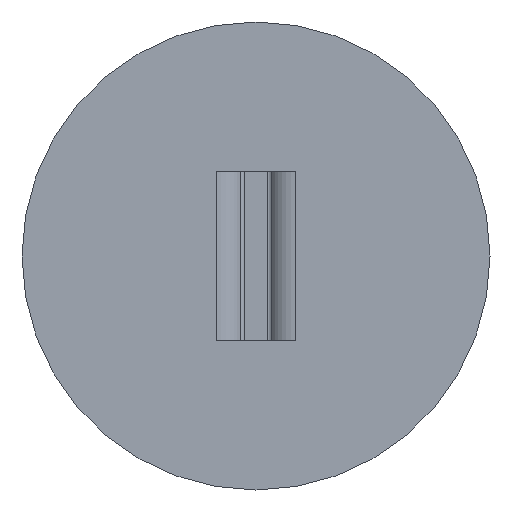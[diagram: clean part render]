
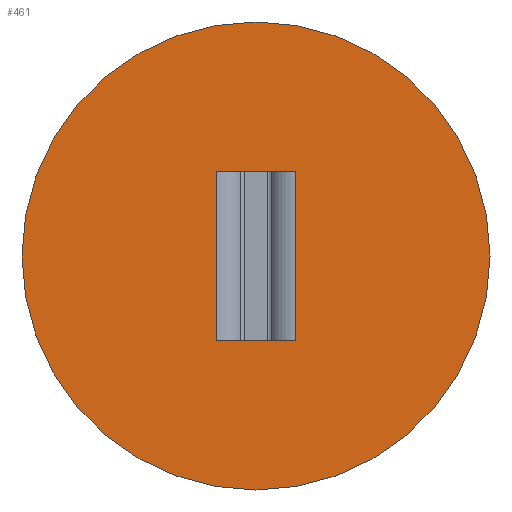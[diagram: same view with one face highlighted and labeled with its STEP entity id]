
A CAD part, front view. The second image highlights one B-rep face of the part: STEP entity #461.
In plain terms, the highlighted planar face has unit normal (0, -1, 0).
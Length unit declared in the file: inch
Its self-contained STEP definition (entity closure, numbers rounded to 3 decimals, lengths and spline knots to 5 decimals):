
#1 = ORIENTED_EDGE ( 'NONE', *, *, #41, .T. ) ;
#10 = VERTEX_POINT ( 'NONE', #290 ) ;
#24 = CARTESIAN_POINT ( 'NONE',  ( -0.625, -0.049, 0.2265 ) ) ;
#28 = EDGE_CURVE ( 'NONE', #10, #465, #191, .T. ) ;
#31 = CARTESIAN_POINT ( 'NONE',  ( 0.0885, -0.049, 0. ) ) ;
#36 = LINE ( 'NONE', #31, #269 ) ;
#39 = EDGE_LOOP ( 'NONE', ( #1, #381 ) ) ;
#41 = EDGE_CURVE ( 'NONE', #487, #387, #522, .T. ) ;
#48 = CARTESIAN_POINT ( 'NONE',  ( 0.0885, -0.049, 0.453 ) ) ;
#57 = ORIENTED_EDGE ( 'NONE', *, *, #593, .T. ) ;
#60 = CARTESIAN_POINT ( 'NONE',  ( 0.0885, -0.049, 0.453 ) ) ;
#71 = DIRECTION ( 'NONE',  ( 1., 0., 0. ) ) ;
#78 = EDGE_CURVE ( 'NONE', #387, #487, #502, .T. ) ;
#86 = LINE ( 'NONE', #301, #537 ) ;
#91 = VERTEX_POINT ( 'NONE', #310 ) ;
#95 = ORIENTED_EDGE ( 'NONE', *, *, #511, .F. ) ;
#111 = FACE_OUTER_BOUND ( 'NONE', #39, .T. ) ;
#128 = AXIS2_PLACEMENT_3D ( 'NONE', #60, #495, #71 ) ;
#137 = DIRECTION ( 'NONE',  ( 0., -1., 0. ) ) ;
#156 = CARTESIAN_POINT ( 'NONE',  ( 0., -0.049, 0.2265 ) ) ;
#172 = AXIS2_PLACEMENT_3D ( 'NONE', #156, #342, #540 ) ;
#191 = LINE ( 'NONE', #48, #276 ) ;
#193 = VECTOR ( 'NONE', #361, 39.37008 ) ;
#198 = DIRECTION ( 'NONE',  ( 1., 0., 0. ) ) ;
#230 = ORIENTED_EDGE ( 'NONE', *, *, #605, .F. ) ;
#237 = VERTEX_POINT ( 'NONE', #341 ) ;
#247 = EDGE_LOOP ( 'NONE', ( #57, #230, #362, #95 ) ) ;
#269 = VECTOR ( 'NONE', #564, 39.37008 ) ;
#276 = VECTOR ( 'NONE', #198, 39.37008 ) ;
#287 = CARTESIAN_POINT ( 'NONE',  ( 0., -0.049, 0.2265 ) ) ;
#290 = CARTESIAN_POINT ( 'NONE',  ( -0.10626, -0.049, 0.453 ) ) ;
#301 = CARTESIAN_POINT ( 'NONE',  ( 0.10626, -0.049, 0.453 ) ) ;
#310 = CARTESIAN_POINT ( 'NONE',  ( 0.10626, -0.049, 0. ) ) ;
#341 = CARTESIAN_POINT ( 'NONE',  ( -0.10626, -0.049, 0. ) ) ;
#342 = DIRECTION ( 'NONE',  ( 0., -1., 0. ) ) ;
#354 = LINE ( 'NONE', #600, #193 ) ;
#361 = DIRECTION ( 'NONE',  ( 0., 0., -1. ) ) ;
#362 = ORIENTED_EDGE ( 'NONE', *, *, #28, .T. ) ;
#367 = AXIS2_PLACEMENT_3D ( 'NONE', #287, #137, #388 ) ;
#381 = ORIENTED_EDGE ( 'NONE', *, *, #78, .T. ) ;
#387 = VERTEX_POINT ( 'NONE', #24 ) ;
#388 = DIRECTION ( 'NONE',  ( 1., 0., 0. ) ) ;
#461 = ADVANCED_FACE ( 'NONE', ( #546, #111 ), #594, .T. ) ;
#465 = VERTEX_POINT ( 'NONE', #491 ) ;
#487 = VERTEX_POINT ( 'NONE', #586 ) ;
#491 = CARTESIAN_POINT ( 'NONE',  ( 0.10626, -0.049, 0.453 ) ) ;
#495 = DIRECTION ( 'NONE',  ( 0., -1., 0. ) ) ;
#502 = CIRCLE ( 'NONE', #172, 0.625 ) ;
#511 = EDGE_CURVE ( 'NONE', #91, #465, #86, .T. ) ;
#522 = CIRCLE ( 'NONE', #367, 0.625 ) ;
#537 = VECTOR ( 'NONE', #595, 39.37008 ) ;
#540 = DIRECTION ( 'NONE',  ( 1., 0., 0. ) ) ;
#546 = FACE_BOUND ( 'NONE', #247, .T. ) ;
#564 = DIRECTION ( 'NONE',  ( -1., 0., 0. ) ) ;
#586 = CARTESIAN_POINT ( 'NONE',  ( 0.625, -0.049, 0.2265 ) ) ;
#593 = EDGE_CURVE ( 'NONE', #91, #237, #36, .T. ) ;
#594 = PLANE ( 'NONE',  #128 ) ;
#595 = DIRECTION ( 'NONE',  ( 0., 0., 1. ) ) ;
#600 = CARTESIAN_POINT ( 'NONE',  ( -0.10626, -0.049, 0.453 ) ) ;
#605 = EDGE_CURVE ( 'NONE', #10, #237, #354, .T. ) ;
